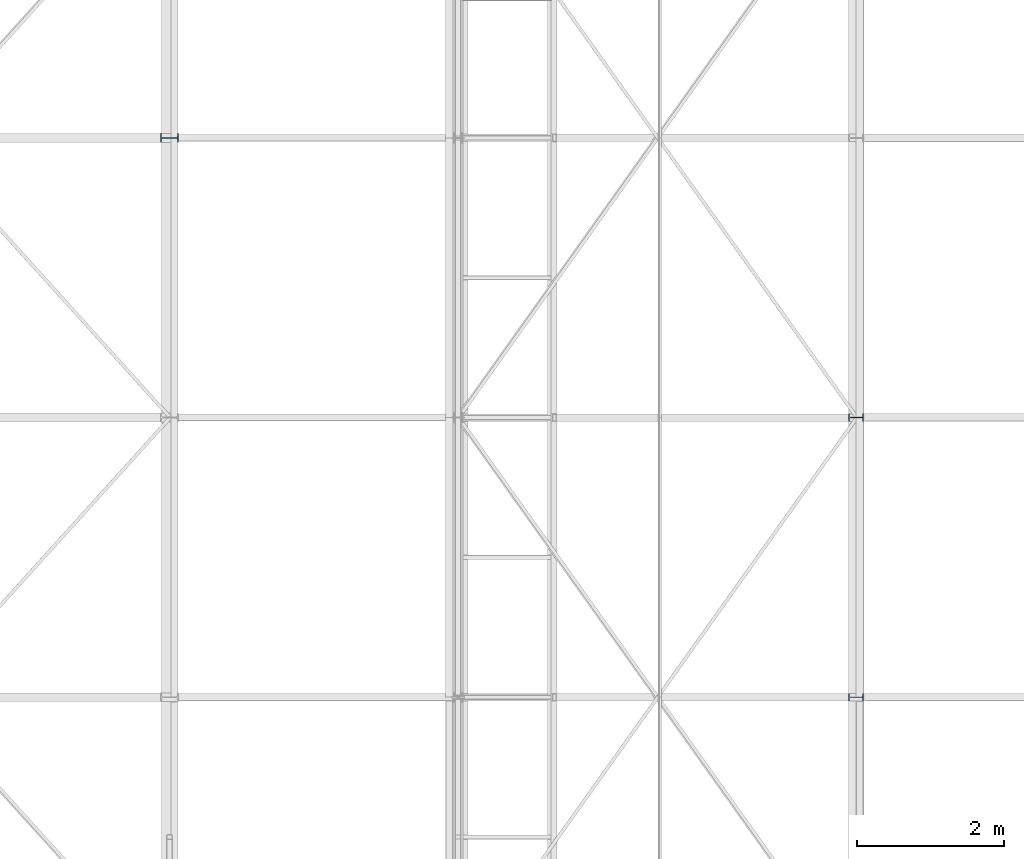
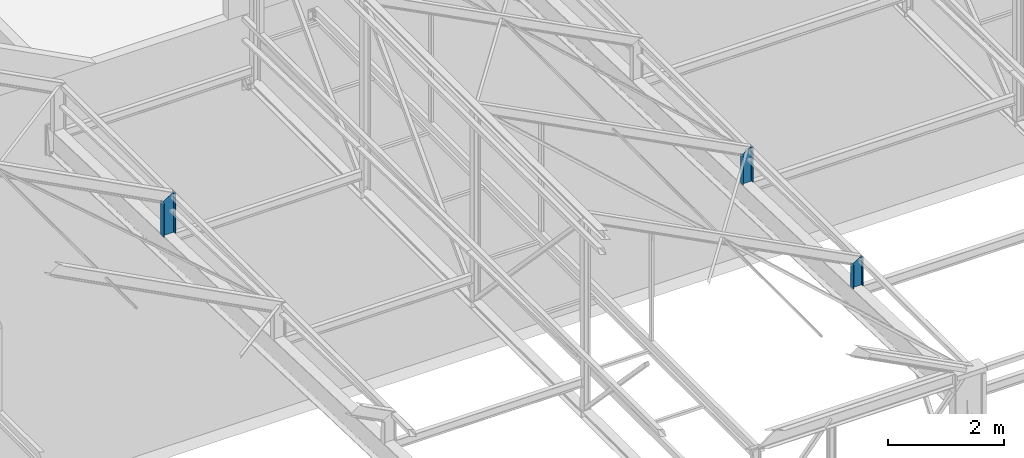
# One storey, part 82 of 123: 3 discrete accessories, 3 elements without a shape of their own.
"""IFC2X3 building model written with IfcOpenShell, lengths in millimetres."""

import ifcopenshell
import ifcopenshell.guid

model = None  # the IFC model being written
_history = None  # IfcOwnerHistory: only IFC2X3 demands one
_inside = {}  # id of a spatial element -> (the spatial element, [elements in it])
_under = {}  # id of a project, library or spatial element -> (it, [spatial elements below it])
_declared = {}  # id of a project -> (the project, [libraries it declares])
_typed = {}  # id of a type object -> (the type object, [elements of that type])
_made_of = {}  # id of a material, layer set ... -> (it, [elements and type objects made of it])


def new_model(schema):
    """Start an empty IFC model of exactly this schema.

    Asked for "IFC4X3", IfcOpenShell would pick the latest addendum, in which some entities
    have other attributes; the version numbers below select the first issue.
    IFC2X3 requires an IfcOwnerHistory on every rooted entity: one is made here for all.
    """
    global model, _history
    if schema == "IFC4X3":
        model = ifcopenshell.file(schema_version=(4, 3, 0, 0))
    else:
        model = ifcopenshell.file(schema=schema)
    _inside.clear()
    _under.clear()
    _declared.clear()
    _typed.clear()
    _made_of.clear()
    _history = None
    if model.schema == "IFC2X3":
        org = make("IfcOrganization", Name="unknown")
        user = make(
            "IfcPersonAndOrganization",
            ThePerson=make("IfcPerson", FamilyName="unknown"),
            TheOrganization=org,
        )
        app = make(
            "IfcApplication",
            ApplicationDeveloper=org,
            Version="unknown",
            ApplicationFullName="unknown",
            ApplicationIdentifier="unknown",
        )
        _history = make(
            "IfcOwnerHistory",
            OwningUser=user,
            OwningApplication=app,
            ChangeAction="ADDED",
            CreationDate=0,
        )
    return model


def make(cls, **values):
    """One entity of the class cls with the attributes given. An attribute that is None is left unset."""
    return model.create_entity(
        cls, **{name: value for name, value in values.items() if value is not None}
    )


def rooted(cls, **values):
    """An entity with a GlobalId (a new one), such as an element, a storey or a relation."""
    return make(cls, GlobalId=ifcopenshell.guid.new(), OwnerHistory=_history, **values)


def si_unit(unit_type, name, prefix=None):
    """IfcSIUnit, for example si_unit("LENGTHUNIT", "METRE", prefix="MILLI")."""
    return make("IfcSIUnit", UnitType=unit_type, Prefix=prefix, Name=name)


def assignment(units):
    """IfcUnitAssignment: the units of a project."""
    return None if units is None else make("IfcUnitAssignment", Units=units)


def point(xyz):
    """IfcCartesianPoint."""
    return None if xyz is None else make("IfcCartesianPoint", Coordinates=xyz)


def direction(xyz):
    """IfcDirection."""
    return None if xyz is None else make("IfcDirection", DirectionRatios=xyz)


def frame(location, z_axis=None, x_axis=None):
    """IfcAxis2Placement3D, a coordinate frame: its origin and axes. An axis left out is left unset."""
    return make(
        "IfcAxis2Placement3D",
        Location=point(location),
        Axis=direction(z_axis),
        RefDirection=direction(x_axis),
    )


def frame_2d(location, x_axis=None):
    """IfcAxis2Placement2D, a coordinate frame in the plane: its origin and x axis."""
    return make(
        "IfcAxis2Placement2D", Location=point(location), RefDirection=direction(x_axis)
    )


def origin_with_axes():
    """The frame at (0, 0, 0) with the z axis (0, 0, 1) and the x axis (1, 0, 0) written out."""
    return frame((0.0, 0.0, 0.0), z_axis=(0.0, 0.0, 1.0), x_axis=(1.0, 0.0, 0.0))


def origin_2d_with_axis():
    """The frame at (0, 0) in the plane with the x axis (1, 0) written out."""
    return frame_2d((0.0, 0.0), x_axis=(1.0, 0.0))


def place(relative_to, where):
    """IfcLocalPlacement: puts the frame where relative to a parent placement (None: the world)."""
    return make(
        "IfcLocalPlacement", PlacementRelTo=relative_to, RelativePlacement=where
    )


def context(
    kind, dimensions, precision=None, world=None, true_north=None, identifier=None
):
    """IfcGeometricRepresentationContext, for example the 3D "Model" context."""
    return make(
        "IfcGeometricRepresentationContext",
        ContextIdentifier=identifier,
        ContextType=kind,
        CoordinateSpaceDimension=dimensions,
        Precision=precision,
        WorldCoordinateSystem=world,
        TrueNorth=true_north,
    )


def subcontext(parent, identifier, kind, view, scale=None):
    """IfcGeometricRepresentationSubContext, for example "Body" below "Model"."""
    return make(
        "IfcGeometricRepresentationSubContext",
        ContextIdentifier=identifier,
        ContextType=kind,
        ParentContext=parent,
        TargetScale=scale,
        TargetView=view,
    )


def project(units=None, contexts=None):
    """IfcProject with its units and contexts."""
    return rooted(
        "IfcProject",
        Name="project",
        RepresentationContexts=contexts,
        UnitsInContext=assignment(units),
    )


def spatial(cls, under=None, at=None, **own):
    """A site, building, storey or space (cls), placed at a placement, below another one or the project."""
    s = rooted(cls, ObjectPlacement=at, **own)
    if under is not None:
        _under.setdefault(under.id(), (under, []))[1].append(s)
    return s


def profile(cls, at=None, kind="AREA", **sizes):
    """A parametric profile (cls). Its sizes go by their IFC names, for example OverallWidth=200.0."""
    return make(cls, ProfileType=kind, Position=at, **sizes)


def i_section(**sizes):
    """IfcIShapeProfileDef."""
    return profile("IfcIShapeProfileDef", **sizes)


def extrude(swept, where, along, depth):
    """IfcExtrudedAreaSolid: the profile swept, set in the frame where, extruded along a direction by depth."""
    return make(
        "IfcExtrudedAreaSolid",
        SweptArea=swept,
        Position=where,
        ExtrudedDirection=direction(along),
        Depth=depth,
    )


def clip(a, b, op="DIFFERENCE"):
    """IfcBooleanClippingResult: the solid a cut by the half space b."""
    return make(
        "IfcBooleanClippingResult", Operator=op, FirstOperand=a, SecondOperand=b
    )


def halfspace(plane, agree):
    """IfcHalfSpaceSolid: all space on one side of the plane z = 0 of the frame plane."""
    return make(
        "IfcHalfSpaceSolid",
        BaseSurface=make("IfcPlane", Position=plane),
        AgreementFlag=agree,
    )


def shape(context_of_items, identifier, shape_type, items):
    """IfcShapeRepresentation: the items that make up one representation, for example the "Body"."""
    return make(
        "IfcShapeRepresentation",
        ContextOfItems=context_of_items,
        RepresentationIdentifier=identifier,
        RepresentationType=shape_type,
        Items=items,
    )


def material(Name=None, Category=None):
    """IfcMaterial."""
    return make("IfcMaterial", Name=Name, Category=Category)


def made_of(thing, what):
    """Note that an element or type object is made of a material, layer set ...; save() writes the relation."""
    if what is not None:
        _made_of.setdefault(what.id(), (what, []))[1].append(thing)
    return thing


def type_object(cls, material=None, **own):
    """A type object (cls), such as IfcWallType, which elements share."""
    return made_of(rooted(cls, **own), material)


def element(
    cls,
    number,
    at=None,
    inside=None,
    cuts=None,
    type_object=None,
    material=None,
    context=None,
    identifier="Body",
    shape_type=None,
    held_by="IfcProductDefinitionShape",
    body=None,
    shapes=None,
    **own,
):
    """One element of the class cls, such as IfcWall. Its Tag is "e" and its number.

    at: its placement. inside: the storey or other place that contains it. cuts: it is an
    opening in that element (IfcRelVoidsElement). A single representation is given by context,
    identifier, shape_type and body (its items); several are given by shapes. held_by: the class
    of the entity that holds the representations. save() writes the other relations.
    """
    e = rooted(cls, Tag="e%d" % number, ObjectPlacement=at, **own)
    if body is not None:
        shapes = [shape(context, identifier, shape_type, body)]
    if shapes is not None:
        e.Representation = make(held_by, Representations=shapes)
    if inside is not None:
        _inside.setdefault(inside.id(), (inside, []))[1].append(e)
    if cuts is not None:
        rooted(
            "IfcRelVoidsElement", RelatingBuildingElement=cuts, RelatedOpeningElement=e
        )
    if type_object is not None:
        _typed.setdefault(type_object.id(), (type_object, []))[1].append(e)
    return made_of(e, material)


def aggregate(whole, parts):
    """IfcRelAggregates: a whole, such as a stair, and the parts it consists of."""
    return rooted("IfcRelAggregates", RelatingObject=whole, RelatedObjects=parts)


def save(model, path):
    """Write the relations noted so far, then the file.

    IfcRelAggregates (storeys below a building ...), IfcRelContainedInSpatialStructure (elements
    in a storey), IfcRelDefinesByType, IfcRelAssociatesMaterial and IfcRelDeclares: one each for
    every whole, place, type object, material and project.
    """
    for whole, parts in _under.values():
        aggregate(whole, parts)
    for where, things in _inside.values():
        rooted(
            "IfcRelContainedInSpatialStructure",
            RelatedElements=things,
            RelatingStructure=where,
        )
    for kind, things in _typed.values():
        rooted("IfcRelDefinesByType", RelatedObjects=things, RelatingType=kind)
    for what, things in _made_of.values():
        rooted("IfcRelAssociatesMaterial", RelatedObjects=things, RelatingMaterial=what)
    for by, libraries in _declared.values():
        rooted("IfcRelDeclares", RelatingContext=by, RelatedDefinitions=libraries)
    model.write(path)


model = new_model("IFC2X3")

# Units and contexts
model_context = context("Model", 3, precision=1e-05, world=origin_with_axes())
body_context = subcontext(model_context, "Body", "Model", "MODEL_VIEW")
ifc_project = project(units=[si_unit("LENGTHUNIT", "METRE", prefix="MILLI"), si_unit("AREAUNIT", "SQUARE_METRE"), si_unit("VOLUMEUNIT", "CUBIC_METRE"), si_unit("MASSUNIT", "GRAM", prefix="KILO"), si_unit("TIMEUNIT", "SECOND"), si_unit("PLANEANGLEUNIT", "RADIAN"), si_unit("SOLIDANGLEUNIT", "STERADIAN"), si_unit("THERMODYNAMICTEMPERATUREUNIT", "DEGREE_CELSIUS"), si_unit("LUMINOUSINTENSITYUNIT", "LUMEN")], contexts=[model_context])

# Site, building, storey
site_placement = place(None, origin_with_axes())
site = spatial("IfcSite", under=ifc_project, at=site_placement, Name="Undefined", CompositionType="ELEMENT")
building_placement = place(site_placement, origin_with_axes())
building = spatial("IfcBuilding", under=site, at=building_placement, Name="Undefined", CompositionType="ELEMENT")
storey_placement = place(building_placement, origin_with_axes())
storey = spatial("IfcBuildingStorey", under=building, at=storey_placement, Name="Undefined", CompositionType="ELEMENT", Elevation=0.0)

# Assembly, discrete accessory
assembly_1_placement = place(storey_placement, origin_with_axes())
assembly_1 = element("IfcElementAssembly", 1, at=assembly_1_placement, inside=storey, Name="Steel Assembly", AssemblyPlace="NOTDEFINED", PredefinedType="RIGID_FRAME")
ifc_material = material(Name="STEEL/S275-E28")
discrete_accessory_type = type_object("IfcDiscreteAccessoryType", Name="TRAVERSE SHED")
discrete_accessory_1_placement = place(assembly_1_placement, frame((28880.0, 7600.0, 7811.16037857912), z_axis=(0.0, 0.0, 1.0), x_axis=(-1.0, 0.0, 0.0)))
discrete_accessory_1 = element("IfcDiscreteAccessory", 2, at=discrete_accessory_1_placement, type_object=discrete_accessory_type, material=ifc_material, Name="TRAVERSE SHED", ObjectType="IPE200", context=body_context, shape_type="Clipping", body=[
    clip(extrude(i_section(OverallWidth=100.0, OverallDepth=200.0, WebThickness=5.599999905, FlangeThickness=8.5, FilletRadius=12.0, at=origin_2d_with_axis()), frame((0.0, 0.0, 739.447714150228), z_axis=(0.0, 0.0, -1.0), x_axis=(0.0, 1.0, 0.0)), (0.0, 0.0, 1.0), 739.4), halfspace(frame((-100.000000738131, 3800.0, 738.83962288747), z_axis=(0.519570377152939, 0.0, 0.854427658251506), x_axis=(0.0, 1.0, 0.0)), False)),
])
aggregate(assembly_1, [discrete_accessory_1])

assembly_2_placement = place(storey_placement, origin_with_axes())
assembly_2 = element("IfcElementAssembly", 3, at=assembly_2_placement, inside=storey, Name="Steel Assembly", AssemblyPlace="NOTDEFINED", PredefinedType="RIGID_FRAME")
discrete_accessory_2_placement = place(assembly_2_placement, frame((28880.0, 3800.0, 7930.58018928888), z_axis=(0.0, 0.0, 1.0), x_axis=(-1.0, 0.0, 0.0)))
discrete_accessory_2 = element("IfcDiscreteAccessory", 4, at=discrete_accessory_2_placement, type_object=discrete_accessory_type, material=ifc_material, Name="TRAVERSE SHED", ObjectType="IPE200", context=body_context, shape_type="Clipping", body=[
    clip(extrude(i_section(OverallWidth=100.0, OverallDepth=200.0, WebThickness=5.599999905, FlangeThickness=8.5, FilletRadius=12.0, at=origin_2d_with_axis()), frame((0.0, 0.0, 620.027903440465), z_axis=(0.0, 0.0, -1.0), x_axis=(0.0, 1.0, 0.0)), (0.0, 0.0, 1.0), 620.0), halfspace(frame((-100.000000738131, -4.54747350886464e-13, 619.419812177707), z_axis=(0.519570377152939, 0.0, 0.854427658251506), x_axis=(0.0, 1.0, 0.0)), False)),
])
aggregate(assembly_2, [discrete_accessory_2])

assembly_3_placement = place(storey_placement, origin_with_axes())
assembly_3 = element("IfcElementAssembly", 5, at=assembly_3_placement, inside=storey, Name="Steel Assembly", AssemblyPlace="NOTDEFINED", PredefinedType="RIGID_FRAME")
discrete_accessory_3_placement = place(assembly_3_placement, frame((19550.0, 11400.0, 7691.74056786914), z_axis=(0.0, 0.0, 1.0), x_axis=(-1.0, 0.0, 0.0)))
discrete_accessory_3 = element("IfcDiscreteAccessory", 6, at=discrete_accessory_3_placement, type_object=discrete_accessory_type, material=ifc_material, Name="TRAVERSE SHED", ObjectType="IPE240", context=body_context, shape_type="Clipping", body=[
    clip(extrude(i_section(OverallWidth=120.0, OverallDepth=240.0, WebThickness=6.199999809, FlangeThickness=9.800000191, FilletRadius=15.0, at=origin_2d_with_axis()), frame((0.0, 0.0, 858.985964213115), z_axis=(0.0, 0.0, -1.0), x_axis=(0.0, 1.0, 0.0)), (0.0, 0.0, 1.0), 859.0), halfspace(frame((-120.000000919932, 7600.0, 858.259434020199), z_axis=(0.517914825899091, 0.0, 0.855432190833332), x_axis=(0.0, 1.0, 0.0)), False)),
])
aggregate(assembly_3, [discrete_accessory_3])

save(model, "model.ifc")
